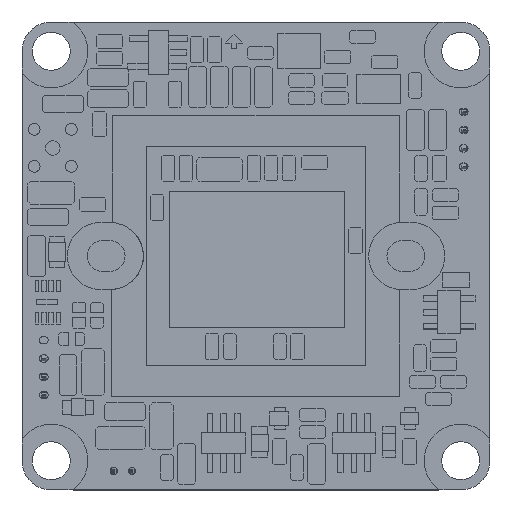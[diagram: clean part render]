
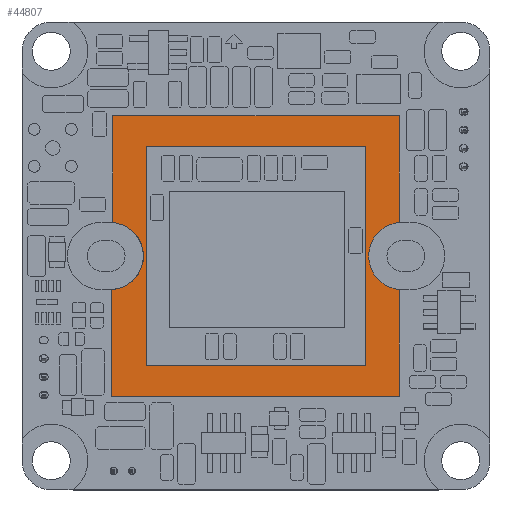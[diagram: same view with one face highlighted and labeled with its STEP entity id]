
A CAD part, top view. The second image highlights one B-rep face of the part: STEP entity #44807.
In plain terms, the highlighted planar face has unit normal (0, 0, 1) by its records, which use the part's own axes.
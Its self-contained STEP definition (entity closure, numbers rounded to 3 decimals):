
#13540=DIRECTION('',(0.,1.,0.));
#13541=VECTOR('',#13540,15.);
#13542=CARTESIAN_POINT('',(-7.5,-7.5,1.15));
#13543=LINE('',#13542,#13541);
#13544=DIRECTION('',(-1.,0.,0.));
#13545=VECTOR('',#13544,15.);
#13546=CARTESIAN_POINT('',(7.5,-7.5,1.15));
#13547=LINE('',#13546,#13545);
#13548=DIRECTION('',(0.,-1.,0.));
#13549=VECTOR('',#13548,15.);
#13550=CARTESIAN_POINT('',(7.5,7.5,1.15));
#13551=LINE('',#13550,#13549);
#13552=DIRECTION('',(1.,0.,0.));
#13553=VECTOR('',#13552,15.);
#13554=CARTESIAN_POINT('',(-7.5,7.5,1.15));
#13555=LINE('',#13554,#13553);
#13556=CARTESIAN_POINT('',(-10.,0.,1.15));
#13557=DIRECTION('',(0.,0.,-1.));
#13558=DIRECTION('',(0.,1.,0.));
#13559=AXIS2_PLACEMENT_3D('',#13556,#13557,#13558);
#13561=DIRECTION('',(-1.,0.,0.));
#13562=VECTOR('',#13561,0.2);
#13563=CARTESIAN_POINT('',(-9.8,2.3,1.15));
#13564=LINE('',#13563,#13562);
#13565=DIRECTION('',(0.,-1.,0.));
#13566=VECTOR('',#13565,7.3);
#13567=CARTESIAN_POINT('',(-9.8,9.6,1.15));
#13568=LINE('',#13567,#13566);
#13569=DIRECTION('',(-1.,0.,0.));
#13570=VECTOR('',#13569,19.6);
#13571=CARTESIAN_POINT('',(9.8,9.6,1.15));
#13572=LINE('',#13571,#13570);
#13573=DIRECTION('',(0.,1.,0.));
#13574=VECTOR('',#13573,7.3);
#13575=CARTESIAN_POINT('',(9.8,2.3,1.15));
#13576=LINE('',#13575,#13574);
#13577=DIRECTION('',(-1.,0.,0.));
#13578=VECTOR('',#13577,0.2);
#13579=CARTESIAN_POINT('',(10.,2.3,1.15));
#13580=LINE('',#13579,#13578);
#13581=CARTESIAN_POINT('',(10.,0.,1.15));
#13582=DIRECTION('',(0.,0.,1.));
#13583=DIRECTION('',(0.,1.,0.));
#13584=AXIS2_PLACEMENT_3D('',#13581,#13582,#13583);
#13586=DIRECTION('',(1.,0.,0.));
#13587=VECTOR('',#13586,0.2);
#13588=CARTESIAN_POINT('',(9.8,-2.3,1.15));
#13589=LINE('',#13588,#13587);
#13590=DIRECTION('',(0.,1.,0.));
#13591=VECTOR('',#13590,7.3);
#13592=CARTESIAN_POINT('',(9.8,-9.6,1.15));
#13593=LINE('',#13592,#13591);
#13594=DIRECTION('',(1.,0.,0.));
#13595=VECTOR('',#13594,19.7);
#13596=CARTESIAN_POINT('',(-9.9,-9.6,1.15));
#13597=LINE('',#13596,#13595);
#13598=DIRECTION('',(0.,-1.,0.));
#13599=VECTOR('',#13598,7.301);
#13600=CARTESIAN_POINT('',(-9.9,-2.299,1.15));
#13601=LINE('',#13600,#13599);
#26363=CARTESIAN_POINT('',(9.8,2.3,1.15));
#26364=CARTESIAN_POINT('',(9.8,9.6,1.15));
#26365=VERTEX_POINT('',#26363);
#26366=VERTEX_POINT('',#26364);
#26367=CARTESIAN_POINT('',(-9.8,9.6,1.15));
#26368=VERTEX_POINT('',#26367);
#26369=CARTESIAN_POINT('',(-9.8,2.3,1.15));
#26370=VERTEX_POINT('',#26369);
#26371=CARTESIAN_POINT('',(-9.9,-9.6,1.15));
#26372=CARTESIAN_POINT('',(9.8,-9.6,1.15));
#26373=VERTEX_POINT('',#26371);
#26374=VERTEX_POINT('',#26372);
#26375=CARTESIAN_POINT('',(9.8,-2.3,1.15));
#26376=VERTEX_POINT('',#26375);
#26377=CARTESIAN_POINT('',(-7.5,-7.5,1.15));
#26378=CARTESIAN_POINT('',(-7.5,7.5,1.15));
#26379=VERTEX_POINT('',#26377);
#26380=VERTEX_POINT('',#26378);
#26381=CARTESIAN_POINT('',(7.5,7.5,1.15));
#26382=VERTEX_POINT('',#26381);
#26383=CARTESIAN_POINT('',(7.5,-7.5,1.15));
#26384=VERTEX_POINT('',#26383);
#26489=CARTESIAN_POINT('',(10.,2.3,1.15));
#26490=CARTESIAN_POINT('',(10.,-2.3,1.15));
#26491=VERTEX_POINT('',#26489);
#26492=VERTEX_POINT('',#26490);
#26513=CARTESIAN_POINT('',(-10.,2.3,1.15));
#26514=CARTESIAN_POINT('',(-9.9,-2.298,1.15));
#26515=VERTEX_POINT('',#26513);
#26516=VERTEX_POINT('',#26514);
#44772=CARTESIAN_POINT('',(0.,0.,1.15));
#44773=DIRECTION('',(0.,0.,1.));
#44774=DIRECTION('',(1.,0.,0.));
#44775=AXIS2_PLACEMENT_3D('',#44772,#44773,#44774);
#44776=PLANE('',#44775);
#44777=ORIENTED_EDGE('',*,*,#44701,.F.);
#44778=ORIENTED_EDGE('',*,*,#44723,.F.);
#44780=ORIENTED_EDGE('',*,*,#44779,.F.);
#44782=ORIENTED_EDGE('',*,*,#44781,.F.);
#44784=ORIENTED_EDGE('',*,*,#44783,.F.);
#44785=ORIENTED_EDGE('',*,*,#44372,.F.);
#44787=ORIENTED_EDGE('',*,*,#44786,.T.);
#44789=ORIENTED_EDGE('',*,*,#44788,.F.);
#44791=ORIENTED_EDGE('',*,*,#44790,.F.);
#44793=ORIENTED_EDGE('',*,*,#44792,.F.);
#44794=ORIENTED_EDGE('',*,*,#44763,.F.);
#44795=EDGE_LOOP('',(#44777,#44778,#44780,#44782,#44784,#44785,#44787,#44789,
#44791,#44793,#44794));
#44796=FACE_OUTER_BOUND('',#44795,.F.);
#44798=ORIENTED_EDGE('',*,*,#44797,.F.);
#44800=ORIENTED_EDGE('',*,*,#44799,.F.);
#44802=ORIENTED_EDGE('',*,*,#44801,.F.);
#44804=ORIENTED_EDGE('',*,*,#44803,.F.);
#44805=EDGE_LOOP('',(#44798,#44800,#44802,#44804));
#44806=FACE_BOUND('',#44805,.F.);
#13560=CIRCLE('',#13559,2.3);
#13585=CIRCLE('',#13584,2.3);
#44372=EDGE_CURVE('',#26491,#26365,#13580,.T.);
#44701=EDGE_CURVE('',#26515,#26516,#13560,.T.);
#44723=EDGE_CURVE('',#26370,#26515,#13564,.T.);
#44763=EDGE_CURVE('',#26516,#26373,#13601,.T.);
#44779=EDGE_CURVE('',#26368,#26370,#13568,.T.);
#44781=EDGE_CURVE('',#26366,#26368,#13572,.T.);
#44783=EDGE_CURVE('',#26365,#26366,#13576,.T.);
#44786=EDGE_CURVE('',#26491,#26492,#13585,.T.);
#44788=EDGE_CURVE('',#26376,#26492,#13589,.T.);
#44790=EDGE_CURVE('',#26374,#26376,#13593,.T.);
#44792=EDGE_CURVE('',#26373,#26374,#13597,.T.);
#44797=EDGE_CURVE('',#26379,#26380,#13543,.T.);
#44799=EDGE_CURVE('',#26384,#26379,#13547,.T.);
#44801=EDGE_CURVE('',#26382,#26384,#13551,.T.);
#44803=EDGE_CURVE('',#26380,#26382,#13555,.T.);
#44807=ADVANCED_FACE('',(#44796,#44806),#44776,.T.);
